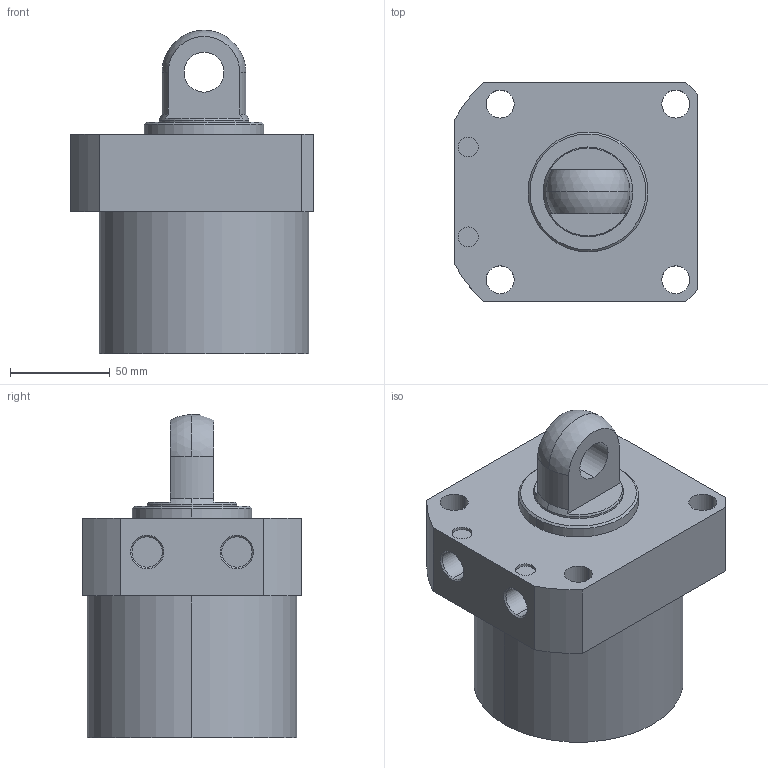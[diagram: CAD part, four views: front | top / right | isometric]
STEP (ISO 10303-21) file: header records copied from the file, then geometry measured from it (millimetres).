
FILE_DESCRIPTION (( 'STEP AP203' ), '1' );
FILE_NAME ('CLLR-105CP-050.STEP', '2019-12-19T02:06:18', ( '' ), ( '' ), 'SwSTEP 2.0', 'SolidWorks 2015', '' );
FILE_SCHEMA (( 'CONFIG_CONTROL_DESIGN' ));
Length unit declared in the file: millimetre
Products named in the file (1): CLLR-105CP-050
Bounding box: 122 x 110 x 162 mm (x, y, z)
Volume: 1140991.8 mm3; surface area: 81099.6 mm2
Topology: 1 solids, 1 shells, 57 faces, 135 edges, 87 vertices
Faces by surface type: cylinder 29, plane 18, cone 8, sphere 2
Entity records: 1770 total; most frequent: DIRECTION 319, CARTESIAN_POINT 292, ORIENTED_EDGE 270, EDGE_CURVE 135, AXIS2_PLACEMENT_3D 130, VERTEX_POINT 87, EDGE_LOOP 74, CIRCLE 72
